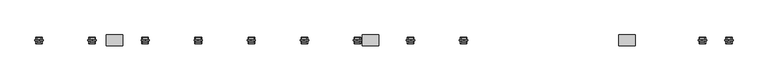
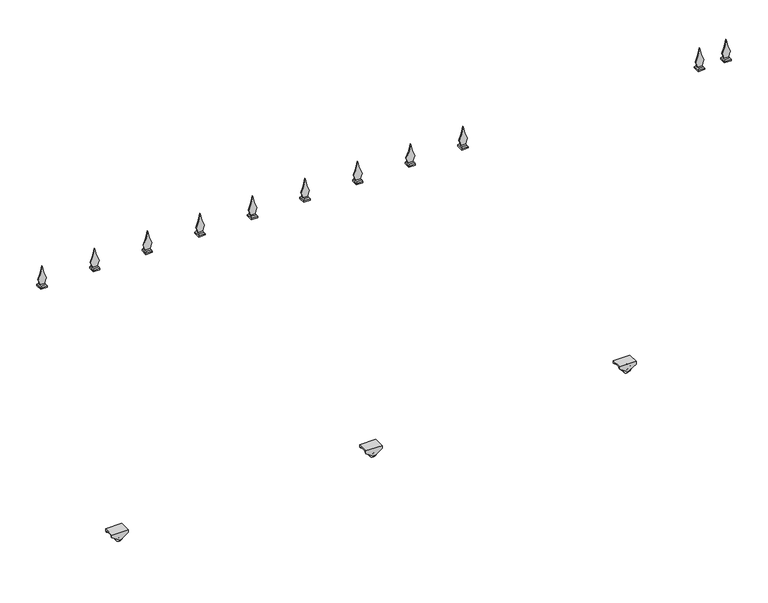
"""IFC4 building model written with IfcOpenShell, lengths in millimetres: geographic element geometry, Portail coulissant - 01 : Portail coulissant - 01."""

from ifc_helpers import new_model, si_unit, point, frame, frame_2d, origin, place, context, project, spatial, polyline, circle_curve, trimmed, segment, composite_curve, outline, extrude, faceted_brep, source, transform, mapped, element, save
from ifc_brep_helpers import plane_surface, cylinder_surface, advanced_brep


def geographic_element_150366da(model_context):
    return source(origin(), model_context, "Body", "SolidModel", [
        advanced_brep(
        [(799.2264823, 1.5, 33.0), (799.2264823, 14.5, 33.0), (799.2264823, 14.5, 3.0), (799.2264823, 1.5, 3.0), (799.2264823, 1.5, 6.0), (799.2264823, 1.5, 30.0), (799.2264823, -1.5, 6.0), (799.2264823, -1.5, 30.0), (799.2264823, -1.5, 3.0), (799.2264823, -1.5, 33.0), (799.2264823, -14.5, 3.0), (799.2264823, -14.5, 33.0), (799.2264823, -14.5, 15.0), (796.2264823, -14.5, 18.0), (799.2264823, -14.5, 21.0), (802.2264823, -14.5, 18.0), (799.2264823, 14.5, 21.0), (796.2264823, 14.5, 18.0), (799.2264823, 14.5, 15.0), (802.2264823, 14.5, 18.0), (796.2264823, 16.0, 18.0), (802.2264823, 16.0, 18.0), (796.2264823, -16.0, 18.0), (802.2264823, -16.0, 18.0)],
        [
            (0, 1),
            (1, 2, circle_curve(frame((799.2264823, 14.5, 18.0), z_axis=(0.0, -1.0, 0.0), x_axis=(0.0, 0.0, -1.0)), 15.0)),
            (2, 3),
            (3, 0, circle_curve(frame((799.2264823, 1.5, 18.0), z_axis=(0.0, 1.0, 0.0), x_axis=(0.0, 0.0, -1.0)), 15.0)),
            (2, 1, circle_curve(frame((799.2264823, 14.5, 18.0), z_axis=(0.0, -1.0, 0.0), x_axis=(0.0, 0.0, -1.0)), 15.0)),
            (0, 3, circle_curve(frame((799.2264823, 1.5, 18.0), z_axis=(0.0, 1.0, 0.0), x_axis=(0.0, 0.0, -1.0)), 15.0)),
            (3, 4),
            (4, 5, circle_curve(frame((799.2264823, 1.5, 18.0), z_axis=(0.0, 1.0, 0.0), x_axis=(0.0, 0.0, -1.0)), 12.0)),
            (5, 0),
            (5, 4, circle_curve(frame((799.2264823, 1.5, 18.0), z_axis=(0.0, 1.0, 0.0), x_axis=(0.0, 0.0, -1.0)), 12.0)),
            (4, 6),
            (6, 7, circle_curve(frame((799.2264823, -1.5, 18.0), z_axis=(0.0, 1.0, 0.0), x_axis=(0.0, 0.0, -1.0)), 12.0)),
            (7, 5),
            (7, 6, circle_curve(frame((799.2264823, -1.5, 18.0), z_axis=(0.0, 1.0, 0.0), x_axis=(0.0, 0.0, -1.0)), 12.0)),
            (6, 8),
            (8, 9, circle_curve(frame((799.2264823, -1.5, 18.0), z_axis=(0.0, 1.0, 0.0), x_axis=(0.0, 0.0, -1.0)), 15.0)),
            (9, 7),
            (9, 8, circle_curve(frame((799.2264823, -1.5, 18.0), z_axis=(0.0, 1.0, 0.0), x_axis=(0.0, 0.0, -1.0)), 15.0)),
            (8, 10),
            (10, 11, circle_curve(frame((799.2264823, -14.5, 18.0), z_axis=(0.0, 1.0, 0.0), x_axis=(0.0, 0.0, -1.0)), 15.0)),
            (11, 9),
            (11, 10, circle_curve(frame((799.2264823, -14.5, 18.0), z_axis=(0.0, 1.0, 0.0), x_axis=(0.0, 0.0, -1.0)), 15.0)),
            (10, 12),
            (12, 13, circle_curve(frame((799.2264823, -14.5, 18.0), z_axis=(0.0, 1.0, 0.0), x_axis=(1.0, 0.0, 0.0)), 3.0)),
            (13, 14, circle_curve(frame((799.2264823, -14.5, 18.0), z_axis=(0.0, 1.0, 0.0), x_axis=(1.0, 0.0, 0.0)), 3.0)),
            (14, 11),
            (14, 15, circle_curve(frame((799.2264823, -14.5, 18.0), z_axis=(0.0, 1.0, 0.0), x_axis=(1.0, 0.0, 0.0)), 3.0)),
            (15, 12, circle_curve(frame((799.2264823, -14.5, 18.0), z_axis=(0.0, 1.0, 0.0), x_axis=(1.0, 0.0, 0.0)), 3.0)),
            (1, 16),
            (16, 17, circle_curve(frame((799.2264823, 14.5, 18.0), z_axis=(0.0, -1.0, 0.0), x_axis=(1.0, 0.0, 0.0)), 3.0)),
            (17, 18, circle_curve(frame((799.2264823, 14.5, 18.0), z_axis=(0.0, -1.0, 0.0), x_axis=(1.0, 0.0, 0.0)), 3.0)),
            (18, 2),
            (18, 19, circle_curve(frame((799.2264823, 14.5, 18.0), z_axis=(0.0, -1.0, 0.0), x_axis=(1.0, 0.0, 0.0)), 3.0)),
            (19, 16, circle_curve(frame((799.2264823, 14.5, 18.0), z_axis=(0.0, -1.0, 0.0), x_axis=(1.0, 0.0, 0.0)), 3.0)),
            (20, 21, circle_curve(frame((799.2264823, 16.0, 18.0), z_axis=(0.0, 1.0, 0.0), x_axis=(1.0, 0.0, 0.0)), 3.0)),
            (21, 20, circle_curve(frame((799.2264823, 16.0, 18.0), z_axis=(0.0, 1.0, 0.0), x_axis=(1.0, 0.0, 0.0)), 3.0)),
            (22, 23, circle_curve(frame((799.2264823, -16.0, 18.0), z_axis=(0.0, -1.0, 0.0), x_axis=(1.0, 0.0, 0.0)), 3.0)),
            (23, 22, circle_curve(frame((799.2264823, -16.0, 18.0), z_axis=(0.0, -1.0, 0.0), x_axis=(1.0, 0.0, 0.0)), 3.0)),
            (22, 13),
            (15, 23),
            (21, 19),
            (17, 20),
        ],
        [
            cylinder_surface(frame((799.2264823, -152.0, 18.0), z_axis=(0.0, -1.0, 0.0), x_axis=(0.0, 0.0, -1.0)), 15.0),
            plane_surface(frame((799.2264823, 1.5, 18.0), z_axis=(0.0, -1.0, 0.0), x_axis=(0.0, 0.0, -1.0))),
            cylinder_surface(frame((799.2264823, -152.0, 18.0), z_axis=(0.0, -1.0, 0.0), x_axis=(0.0, 0.0, -1.0)), 12.0),
            plane_surface(frame((799.2264823, -1.5, 18.0), z_axis=(0.0, 1.0, 0.0), x_axis=(0.0, 0.0, -1.0))),
            plane_surface(frame((799.2264823, -14.5, 18.0), z_axis=(0.0, -1.0, 0.0), x_axis=(0.0, 0.0, -1.0))),
            plane_surface(frame((799.2264823, 14.5, 18.0), z_axis=(0.0, 1.0, 0.0), x_axis=(0.0, 0.0, -1.0))),
            plane_surface(frame((802.2264823, 16.0, 18.0), z_axis=(0.0, 1.0, 0.0), x_axis=(0.0, 0.0, 1.0))),
            plane_surface(frame((802.2264823, -16.0, 18.0), z_axis=(0.0, -1.0, 0.0), x_axis=(0.0, 0.0, -1.0))),
            cylinder_surface(frame((799.2264823, -16.0, 18.0), z_axis=(0.0, 1.0, 0.0), x_axis=(1.0, 0.0, 0.0)), 3.0),
        ],
        [
            (0, [[1, 2, 3, 4]]),
            (0, [[5, -1, 6, -3]]),
            (1, [[7, 8, 9, -4]]),
            (1, [[-9, 10, -7, -6]]),
            (2, [[11, 12, 13, -8]]),
            (2, [[-13, 14, -11, -10]]),
            (3, [[15, 16, 17, -12]]),
            (3, [[-17, 18, -15, -14]]),
            (0, [[19, 20, 21, -16]]),
            (0, [[-21, 22, -19, -18]]),
            (4, [[23, 24, 25, 26, -20]]),
            (4, [[-26, 27, 28, -23, -22]]),
            (5, [[29, 30, 31, 32, -2]]),
            (5, [[-32, 33, 34, -29, -5]]),
            (6, [[35, 36]]),
            (7, [[37, 38]]),
            (8, [[39, -24, -28, 40, -37]]),
            (8, [[41, -33, -31, 42, -36]]),
            (8, [[-42, -30, -34, -41, -35]]),
            (8, [[-40, -27, -25, -39, -38]]),
        ],
    ),
        advanced_brep(
        [(769.2264823, 20.0, 30.0), (769.2264823, 20.0, 40.0), (829.2264823, 20.0, 40.0), (829.2264823, 20.0, 30.0), (804.7734842, 20.0, 13.6980013), (793.6794803, 20.0, 13.6980013), (769.2264823, -20.0, 30.0), (793.6794803, -20.0, 13.6980013), (804.7734842, -20.0, 13.6980013), (829.2264823, -20.0, 30.0), (829.2264823, -20.0, 40.0), (769.2264823, -20.0, 40.0), (769.2264823, -16.0, 30.0), (793.6794803, -16.0, 13.6980013), (793.6794803, 16.0, 13.6980013), (769.2264823, 16.0, 30.0), (804.7734842, -16.0, 13.6980013), (804.7734842, 16.0, 13.6980013), (829.2264823, -16.0, 30.0), (829.2264823, 16.0, 30.0), (829.2264823, -16.0, 36.0), (829.2264823, 16.0, 36.0), (769.2264823, 16.0, 36.0), (769.2264823, -16.0, 36.0)],
        [
            (0, 1),
            (1, 2),
            (2, 3),
            (3, 4),
            (4, 5, circle_curve(frame((799.2264823, 20.0, 22.0185043), z_axis=(0.0, 1.0, 0.0), x_axis=(1.0, 0.0, 0.0)), 10.0)),
            (5, 0),
            (6, 7),
            (7, 8, circle_curve(frame((799.2264823, -20.0, 22.0185043), z_axis=(0.0, -1.0, 0.0), x_axis=(1.0, 0.0, 0.0)), 10.0)),
            (8, 9),
            (9, 10),
            (10, 11),
            (11, 6),
            (6, 12),
            (12, 13),
            (13, 7),
            (5, 14),
            (14, 15),
            (15, 0),
            (13, 16, circle_curve(frame((799.2264823, -16.0, 22.0185043), z_axis=(0.0, -1.0, 0.0), x_axis=(1.0, 0.0, 0.0)), 10.0)),
            (16, 8),
            (4, 17),
            (17, 14, circle_curve(frame((799.2264823, 16.0, 22.0185043), z_axis=(0.0, 1.0, 0.0), x_axis=(1.0, 0.0, 0.0)), 10.0)),
            (16, 18),
            (18, 9),
            (3, 19),
            (19, 17),
            (2, 10),
            (18, 20),
            (20, 21),
            (21, 19),
            (1, 11),
            (15, 22),
            (22, 23),
            (23, 12),
            (21, 22),
            (20, 23),
        ],
        [
            plane_surface(frame((769.2264823, 20.0, 30.0), z_axis=(0.0, 1.0000000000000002, 0.0), x_axis=(0.8320502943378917, 0.0, -0.5547001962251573))),
            plane_surface(frame((769.2264823, -20.0, 30.0), z_axis=(0.0, -1.0000000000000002, 0.0), x_axis=(-0.8320502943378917, 0.0, 0.5547001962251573))),
            plane_surface(frame((769.2264823, 20.0, 30.0), z_axis=(-0.5547001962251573, 0.0, -0.8320502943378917), x_axis=(0.0, -1.0, 0.0))),
            cylinder_surface(frame((799.2264823, -20.0, 22.0185043), z_axis=(0.0, 1.0, 0.0), x_axis=(1.0, 0.0, 0.0)), 10.0),
            plane_surface(frame((804.7734842, 20.0, 13.6980013), z_axis=(0.554700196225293, 0.0, -0.8320502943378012), x_axis=(0.0, -1.0, 0.0))),
            plane_surface(frame((829.2264823, 20.0, 30.0), z_axis=(1.0, 0.0, 0.0), x_axis=(0.0, -1.0, 0.0))),
            plane_surface(frame((829.2264823, 20.0, 40.0), z_axis=(0.0, 0.0, 1.0), x_axis=(0.0, -1.0, 0.0))),
            plane_surface(frame((769.2264823, 20.0, 40.0), z_axis=(-1.0, 0.0, 0.0), x_axis=(0.0, -1.0, 0.0))),
            plane_surface(frame((769.2264823, 16.0, 0.0), z_axis=(0.0, -1.0, 0.0), x_axis=(1.0, 0.0, 0.0))),
            plane_surface(frame((769.2264823, 16.0, 36.0), z_axis=(0.0, 0.0, -1.0), x_axis=(1.0, 0.0, 0.0))),
            plane_surface(frame((769.2264823, -16.0, 36.0), z_axis=(0.0, 1.0, 0.0), x_axis=(1.0, 0.0, 0.0))),
        ],
        [
            (0, [[1, 2, 3, 4, 5, 6]]),
            (1, [[7, 8, 9, 10, 11, 12]]),
            (2, [[13, 14, 15, -7]]),
            (2, [[16, 17, 18, -6]]),
            (3, [[-15, 19, 20, -8]]),
            (3, [[21, 22, -16, -5]]),
            (4, [[-20, 23, 24, -9]]),
            (4, [[25, 26, -21, -4]]),
            (5, [[27, -10, -24, 28, 29, 30, -25, -3]]),
            (6, [[31, -11, -27, -2]]),
            (7, [[-18, 32, 33, 34, -13, -12, -31, -1]]),
            (8, [[-32, -17, -22, -26, -30, 35]]),
            (9, [[-29, 36, -33, -35]]),
            (10, [[-28, -23, -19, -14, -34, -36]]),
        ],
    ),
        advanced_brep(
        [(-134.1068511, 1.5, 33.0), (-134.1068511, 14.5, 33.0), (-134.1068511, 14.5, 3.0), (-134.1068511, 1.5, 3.0), (-134.1068511, 1.5, 6.0), (-134.1068511, 1.5, 30.0), (-134.1068511, -1.5, 6.0), (-134.1068511, -1.5, 30.0), (-134.1068511, -1.5, 3.0), (-134.1068511, -1.5, 33.0), (-134.1068511, -14.5, 3.0), (-134.1068511, -14.5, 33.0), (-134.1068511, -14.5, 15.0), (-137.1068511, -14.5, 18.0), (-134.1068511, -14.5, 21.0), (-131.1068511, -14.5, 18.0), (-134.1068511, 14.5, 21.0), (-137.1068511, 14.5, 18.0), (-134.1068511, 14.5, 15.0), (-131.1068511, 14.5, 18.0), (-137.1068511, 16.0, 18.0), (-131.1068511, 16.0, 18.0), (-137.1068511, -16.0, 18.0), (-131.1068511, -16.0, 18.0)],
        [
            (0, 1),
            (1, 2, circle_curve(frame((-134.1068511, 14.5, 18.0), z_axis=(0.0, -1.0, 0.0), x_axis=(0.0, 0.0, -1.0)), 15.0)),
            (2, 3),
            (3, 0, circle_curve(frame((-134.1068511, 1.5, 18.0), z_axis=(0.0, 1.0, 0.0), x_axis=(0.0, 0.0, -1.0)), 15.0)),
            (2, 1, circle_curve(frame((-134.1068511, 14.5, 18.0), z_axis=(0.0, -1.0, 0.0), x_axis=(0.0, 0.0, -1.0)), 15.0)),
            (0, 3, circle_curve(frame((-134.1068511, 1.5, 18.0), z_axis=(0.0, 1.0, 0.0), x_axis=(0.0, 0.0, -1.0)), 15.0)),
            (3, 4),
            (4, 5, circle_curve(frame((-134.1068511, 1.5, 18.0), z_axis=(0.0, 1.0, 0.0), x_axis=(0.0, 0.0, -1.0)), 12.0)),
            (5, 0),
            (5, 4, circle_curve(frame((-134.1068511, 1.5, 18.0), z_axis=(0.0, 1.0, 0.0), x_axis=(0.0, 0.0, -1.0)), 12.0)),
            (4, 6),
            (6, 7, circle_curve(frame((-134.1068511, -1.5, 18.0), z_axis=(0.0, 1.0, 0.0), x_axis=(0.0, 0.0, -1.0)), 12.0)),
            (7, 5),
            (7, 6, circle_curve(frame((-134.1068511, -1.5, 18.0), z_axis=(0.0, 1.0, 0.0), x_axis=(0.0, 0.0, -1.0)), 12.0)),
            (6, 8),
            (8, 9, circle_curve(frame((-134.1068511, -1.5, 18.0), z_axis=(0.0, 1.0, 0.0), x_axis=(0.0, 0.0, -1.0)), 15.0)),
            (9, 7),
            (9, 8, circle_curve(frame((-134.1068511, -1.5, 18.0), z_axis=(0.0, 1.0, 0.0), x_axis=(0.0, 0.0, -1.0)), 15.0)),
            (8, 10),
            (10, 11, circle_curve(frame((-134.1068511, -14.5, 18.0), z_axis=(0.0, 1.0, 0.0), x_axis=(0.0, 0.0, -1.0)), 15.0)),
            (11, 9),
            (11, 10, circle_curve(frame((-134.1068511, -14.5, 18.0), z_axis=(0.0, 1.0, 0.0), x_axis=(0.0, 0.0, -1.0)), 15.0)),
            (10, 12),
            (12, 13, circle_curve(frame((-134.1068511, -14.5, 18.0), z_axis=(0.0, 1.0, 0.0), x_axis=(1.0, 0.0, 0.0)), 3.0)),
            (13, 14, circle_curve(frame((-134.1068511, -14.5, 18.0), z_axis=(0.0, 1.0, 0.0), x_axis=(1.0, 0.0, 0.0)), 3.0)),
            (14, 11),
            (14, 15, circle_curve(frame((-134.1068511, -14.5, 18.0), z_axis=(0.0, 1.0, 0.0), x_axis=(1.0, 0.0, 0.0)), 3.0)),
            (15, 12, circle_curve(frame((-134.1068511, -14.5, 18.0), z_axis=(0.0, 1.0, 0.0), x_axis=(1.0, 0.0, 0.0)), 3.0)),
            (1, 16),
            (16, 17, circle_curve(frame((-134.1068511, 14.5, 18.0), z_axis=(0.0, -1.0, 0.0), x_axis=(1.0, 0.0, 0.0)), 3.0)),
            (17, 18, circle_curve(frame((-134.1068511, 14.5, 18.0), z_axis=(0.0, -1.0, 0.0), x_axis=(1.0, 0.0, 0.0)), 3.0)),
            (18, 2),
            (18, 19, circle_curve(frame((-134.1068511, 14.5, 18.0), z_axis=(0.0, -1.0, 0.0), x_axis=(1.0, 0.0, 0.0)), 3.0)),
            (19, 16, circle_curve(frame((-134.1068511, 14.5, 18.0), z_axis=(0.0, -1.0, 0.0), x_axis=(1.0, 0.0, 0.0)), 3.0)),
            (20, 21, circle_curve(frame((-134.1068511, 16.0, 18.0), z_axis=(0.0, 1.0, 0.0), x_axis=(1.0, 0.0, 0.0)), 3.0)),
            (21, 20, circle_curve(frame((-134.1068511, 16.0, 18.0), z_axis=(0.0, 1.0, 0.0), x_axis=(1.0, 0.0, 0.0)), 3.0)),
            (22, 23, circle_curve(frame((-134.1068511, -16.0, 18.0), z_axis=(0.0, -1.0, 0.0), x_axis=(1.0, 0.0, 0.0)), 3.0)),
            (23, 22, circle_curve(frame((-134.1068511, -16.0, 18.0), z_axis=(0.0, -1.0, 0.0), x_axis=(1.0, 0.0, 0.0)), 3.0)),
            (22, 13),
            (15, 23),
            (21, 19),
            (17, 20),
        ],
        [
            cylinder_surface(frame((-134.1068511, -152.0, 18.0), z_axis=(0.0, -1.0, 0.0), x_axis=(0.0, 0.0, -1.0)), 15.0),
            plane_surface(frame((-134.1068511, 1.5, 18.0), z_axis=(0.0, -1.0, 0.0), x_axis=(0.0, 0.0, -1.0))),
            cylinder_surface(frame((-134.1068511, -152.0, 18.0), z_axis=(0.0, -1.0, 0.0), x_axis=(0.0, 0.0, -1.0)), 12.0),
            plane_surface(frame((-134.1068511, -1.5, 18.0), z_axis=(0.0, 1.0, 0.0), x_axis=(0.0, 0.0, -1.0))),
            plane_surface(frame((-134.1068511, -14.5, 18.0), z_axis=(0.0, -1.0, 0.0), x_axis=(0.0, 0.0, -1.0))),
            plane_surface(frame((-134.1068511, 14.5, 18.0), z_axis=(0.0, 1.0, 0.0), x_axis=(0.0, 0.0, -1.0))),
            plane_surface(frame((-131.1068511, 16.0, 18.0), z_axis=(0.0, 1.0, 0.0), x_axis=(0.0, 0.0, 1.0))),
            plane_surface(frame((-131.1068511, -16.0, 18.0), z_axis=(0.0, -1.0, 0.0), x_axis=(0.0, 0.0, -1.0))),
            cylinder_surface(frame((-134.1068511, -16.0, 18.0), z_axis=(0.0, 1.0, 0.0), x_axis=(1.0, 0.0, 0.0)), 3.0),
        ],
        [
            (0, [[1, 2, 3, 4]]),
            (0, [[5, -1, 6, -3]]),
            (1, [[7, 8, 9, -4]]),
            (1, [[-9, 10, -7, -6]]),
            (2, [[11, 12, 13, -8]]),
            (2, [[-13, 14, -11, -10]]),
            (3, [[15, 16, 17, -12]]),
            (3, [[-17, 18, -15, -14]]),
            (0, [[19, 20, 21, -16]]),
            (0, [[-21, 22, -19, -18]]),
            (4, [[23, 24, 25, 26, -20]]),
            (4, [[-26, 27, 28, -23, -22]]),
            (5, [[29, 30, 31, 32, -2]]),
            (5, [[-32, 33, 34, -29, -5]]),
            (6, [[35, 36]]),
            (7, [[37, 38]]),
            (8, [[39, -24, -28, 40, -37]]),
            (8, [[41, -33, -31, 42, -36]]),
            (8, [[-42, -30, -34, -41, -35]]),
            (8, [[-40, -27, -25, -39, -38]]),
        ],
    ),
        advanced_brep(
        [(-164.1068511, 20.0, 30.0), (-164.1068511, 20.0, 40.0), (-104.1068511, 20.0, 40.0), (-104.1068511, 20.0, 30.0), (-128.5598491, 20.0, 13.6980013), (-139.653853, 20.0, 13.6980013), (-164.1068511, -20.0, 30.0), (-139.653853, -20.0, 13.6980013), (-128.5598491, -20.0, 13.6980013), (-104.1068511, -20.0, 30.0), (-104.1068511, -20.0, 40.0), (-164.1068511, -20.0, 40.0), (-164.1068511, -16.0, 30.0), (-139.653853, -16.0, 13.6980013), (-139.653853, 16.0, 13.6980013), (-164.1068511, 16.0, 30.0), (-128.5598491, -16.0, 13.6980013), (-128.5598491, 16.0, 13.6980013), (-104.1068511, -16.0, 30.0), (-104.1068511, 16.0, 30.0), (-104.1068511, -16.0, 36.0), (-104.1068511, 16.0, 36.0), (-164.1068511, 16.0, 36.0), (-164.1068511, -16.0, 36.0)],
        [
            (0, 1),
            (1, 2),
            (2, 3),
            (3, 4),
            (4, 5, circle_curve(frame((-134.1068511, 20.0, 22.0185043), z_axis=(0.0, 1.0, 0.0), x_axis=(1.0, 0.0, 0.0)), 10.0)),
            (5, 0),
            (6, 7),
            (7, 8, circle_curve(frame((-134.1068511, -20.0, 22.0185043), z_axis=(0.0, -1.0, 0.0), x_axis=(1.0, 0.0, 0.0)), 10.0)),
            (8, 9),
            (9, 10),
            (10, 11),
            (11, 6),
            (6, 12),
            (12, 13),
            (13, 7),
            (5, 14),
            (14, 15),
            (15, 0),
            (13, 16, circle_curve(frame((-134.1068511, -16.0, 22.0185043), z_axis=(0.0, -1.0, 0.0), x_axis=(1.0, 0.0, 0.0)), 10.0)),
            (16, 8),
            (4, 17),
            (17, 14, circle_curve(frame((-134.1068511, 16.0, 22.0185043), z_axis=(0.0, 1.0, 0.0), x_axis=(1.0, 0.0, 0.0)), 10.0)),
            (16, 18),
            (18, 9),
            (3, 19),
            (19, 17),
            (2, 10),
            (18, 20),
            (20, 21),
            (21, 19),
            (1, 11),
            (15, 22),
            (22, 23),
            (23, 12),
            (21, 22),
            (20, 23),
        ],
        [
            plane_surface(frame((-164.1068511, 20.0, 30.0), z_axis=(0.0, 1.0000000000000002, 0.0), x_axis=(0.8320502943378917, 0.0, -0.5547001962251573))),
            plane_surface(frame((-164.1068511, -20.0, 30.0), z_axis=(0.0, -1.0000000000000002, 0.0), x_axis=(-0.8320502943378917, 0.0, 0.5547001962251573))),
            plane_surface(frame((-164.1068511, 20.0, 30.0), z_axis=(-0.5547001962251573, 0.0, -0.8320502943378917), x_axis=(0.0, -1.0, 0.0))),
            cylinder_surface(frame((-134.1068511, -20.0, 22.0185043), z_axis=(0.0, 1.0, 0.0), x_axis=(1.0, 0.0, 0.0)), 10.0),
            plane_surface(frame((-128.5598491, 20.0, 13.6980013), z_axis=(0.554700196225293, 0.0, -0.8320502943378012), x_axis=(0.0, -1.0, 0.0))),
            plane_surface(frame((-104.1068511, 20.0, 30.0), z_axis=(1.0, 0.0, 0.0), x_axis=(0.0, -1.0, 0.0))),
            plane_surface(frame((-104.1068511, 20.0, 40.0), z_axis=(0.0, 0.0, 1.0), x_axis=(0.0, -1.0, 0.0))),
            plane_surface(frame((-164.1068511, 20.0, 40.0), z_axis=(-1.0, 0.0, 0.0), x_axis=(0.0, -1.0, 0.0))),
            plane_surface(frame((-164.1068511, 16.0, 0.0), z_axis=(0.0, -1.0, 0.0), x_axis=(1.0, 0.0, 0.0))),
            plane_surface(frame((-164.1068511, 16.0, 36.0), z_axis=(0.0, 0.0, -1.0), x_axis=(1.0, 0.0, 0.0))),
            plane_surface(frame((-164.1068511, -16.0, 36.0), z_axis=(0.0, 1.0, 0.0), x_axis=(1.0, 0.0, 0.0))),
        ],
        [
            (0, [[1, 2, 3, 4, 5, 6]]),
            (1, [[7, 8, 9, 10, 11, 12]]),
            (2, [[13, 14, 15, -7]]),
            (2, [[16, 17, 18, -6]]),
            (3, [[-15, 19, 20, -8]]),
            (3, [[21, 22, -16, -5]]),
            (4, [[-20, 23, 24, -9]]),
            (4, [[25, 26, -21, -4]]),
            (5, [[27, -10, -24, 28, 29, 30, -25, -3]]),
            (6, [[31, -11, -27, -2]]),
            (7, [[-18, 32, 33, 34, -13, -12, -31, -1]]),
            (8, [[-32, -17, -22, -26, -30, 35]]),
            (9, [[-29, 36, -33, -35]]),
            (10, [[-28, -23, -19, -14, -34, -36]]),
        ],
    ),
        advanced_brep(
        [(-1067.4401844, 1.5, 33.0), (-1067.4401844, 14.5, 33.0), (-1067.4401844, 14.5, 3.0), (-1067.4401844, 1.5, 3.0), (-1067.4401844, 1.5, 6.0), (-1067.4401844, 1.5, 30.0), (-1067.4401844, -1.5, 6.0), (-1067.4401844, -1.5, 30.0), (-1067.4401844, -1.5, 3.0), (-1067.4401844, -1.5, 33.0), (-1067.4401844, -14.5, 3.0), (-1067.4401844, -14.5, 33.0), (-1067.4401844, -14.5, 15.0), (-1070.4401844, -14.5, 18.0), (-1067.4401844, -14.5, 21.0), (-1064.4401844, -14.5, 18.0), (-1067.4401844, 14.5, 21.0), (-1070.4401844, 14.5, 18.0), (-1067.4401844, 14.5, 15.0), (-1064.4401844, 14.5, 18.0), (-1070.4401844, 16.0, 18.0), (-1064.4401844, 16.0, 18.0), (-1070.4401844, -16.0, 18.0), (-1064.4401844, -16.0, 18.0)],
        [
            (0, 1),
            (1, 2, circle_curve(frame((-1067.4401844, 14.5, 18.0), z_axis=(0.0, -1.0, 0.0), x_axis=(0.0, 0.0, -1.0)), 15.0)),
            (2, 3),
            (3, 0, circle_curve(frame((-1067.4401844, 1.5, 18.0), z_axis=(0.0, 1.0, 0.0), x_axis=(0.0, 0.0, -1.0)), 15.0)),
            (2, 1, circle_curve(frame((-1067.4401844, 14.5, 18.0), z_axis=(0.0, -1.0, 0.0), x_axis=(0.0, 0.0, -1.0)), 15.0)),
            (0, 3, circle_curve(frame((-1067.4401844, 1.5, 18.0), z_axis=(0.0, 1.0, 0.0), x_axis=(0.0, 0.0, -1.0)), 15.0)),
            (3, 4),
            (4, 5, circle_curve(frame((-1067.4401844, 1.5, 18.0), z_axis=(0.0, 1.0, 0.0), x_axis=(0.0, 0.0, -1.0)), 12.0)),
            (5, 0),
            (5, 4, circle_curve(frame((-1067.4401844, 1.5, 18.0), z_axis=(0.0, 1.0, 0.0), x_axis=(0.0, 0.0, -1.0)), 12.0)),
            (4, 6),
            (6, 7, circle_curve(frame((-1067.4401844, -1.5, 18.0), z_axis=(0.0, 1.0, 0.0), x_axis=(0.0, 0.0, -1.0)), 12.0)),
            (7, 5),
            (7, 6, circle_curve(frame((-1067.4401844, -1.5, 18.0), z_axis=(0.0, 1.0, 0.0), x_axis=(0.0, 0.0, -1.0)), 12.0)),
            (6, 8),
            (8, 9, circle_curve(frame((-1067.4401844, -1.5, 18.0), z_axis=(0.0, 1.0, 0.0), x_axis=(0.0, 0.0, -1.0)), 15.0)),
            (9, 7),
            (9, 8, circle_curve(frame((-1067.4401844, -1.5, 18.0), z_axis=(0.0, 1.0, 0.0), x_axis=(0.0, 0.0, -1.0)), 15.0)),
            (8, 10),
            (10, 11, circle_curve(frame((-1067.4401844, -14.5, 18.0), z_axis=(0.0, 1.0, 0.0), x_axis=(0.0, 0.0, -1.0)), 15.0)),
            (11, 9),
            (11, 10, circle_curve(frame((-1067.4401844, -14.5, 18.0), z_axis=(0.0, 1.0, 0.0), x_axis=(0.0, 0.0, -1.0)), 15.0)),
            (10, 12),
            (12, 13, circle_curve(frame((-1067.4401844, -14.5, 18.0), z_axis=(0.0, 1.0, 0.0), x_axis=(1.0, 0.0, 0.0)), 3.0)),
            (13, 14, circle_curve(frame((-1067.4401844, -14.5, 18.0), z_axis=(0.0, 1.0, 0.0), x_axis=(1.0, 0.0, 0.0)), 3.0)),
            (14, 11),
            (14, 15, circle_curve(frame((-1067.4401844, -14.5, 18.0), z_axis=(0.0, 1.0, 0.0), x_axis=(1.0, 0.0, 0.0)), 3.0)),
            (15, 12, circle_curve(frame((-1067.4401844, -14.5, 18.0), z_axis=(0.0, 1.0, 0.0), x_axis=(1.0, 0.0, 0.0)), 3.0)),
            (1, 16),
            (16, 17, circle_curve(frame((-1067.4401844, 14.5, 18.0), z_axis=(0.0, -1.0, 0.0), x_axis=(1.0, 0.0, 0.0)), 3.0)),
            (17, 18, circle_curve(frame((-1067.4401844, 14.5, 18.0), z_axis=(0.0, -1.0, 0.0), x_axis=(1.0, 0.0, 0.0)), 3.0)),
            (18, 2),
            (18, 19, circle_curve(frame((-1067.4401844, 14.5, 18.0), z_axis=(0.0, -1.0, 0.0), x_axis=(1.0, 0.0, 0.0)), 3.0)),
            (19, 16, circle_curve(frame((-1067.4401844, 14.5, 18.0), z_axis=(0.0, -1.0, 0.0), x_axis=(1.0, 0.0, 0.0)), 3.0)),
            (20, 21, circle_curve(frame((-1067.4401844, 16.0, 18.0), z_axis=(0.0, 1.0, 0.0), x_axis=(1.0, 0.0, 0.0)), 3.0)),
            (21, 20, circle_curve(frame((-1067.4401844, 16.0, 18.0), z_axis=(0.0, 1.0, 0.0), x_axis=(1.0, 0.0, 0.0)), 3.0)),
            (22, 23, circle_curve(frame((-1067.4401844, -16.0, 18.0), z_axis=(0.0, -1.0, 0.0), x_axis=(1.0, 0.0, 0.0)), 3.0)),
            (23, 22, circle_curve(frame((-1067.4401844, -16.0, 18.0), z_axis=(0.0, -1.0, 0.0), x_axis=(1.0, 0.0, 0.0)), 3.0)),
            (22, 13),
            (15, 23),
            (21, 19),
            (17, 20),
        ],
        [
            cylinder_surface(frame((-1067.4401844, -152.0, 18.0), z_axis=(0.0, -1.0, 0.0), x_axis=(0.0, 0.0, -1.0)), 15.0),
            plane_surface(frame((-1067.4401844, 1.5, 18.0), z_axis=(0.0, -1.0, 0.0), x_axis=(0.0, 0.0, -1.0))),
            cylinder_surface(frame((-1067.4401844, -152.0, 18.0), z_axis=(0.0, -1.0, 0.0), x_axis=(0.0, 0.0, -1.0)), 12.0),
            plane_surface(frame((-1067.4401844, -1.5, 18.0), z_axis=(0.0, 1.0, 0.0), x_axis=(0.0, 0.0, -1.0))),
            plane_surface(frame((-1067.4401844, -14.5, 18.0), z_axis=(0.0, -1.0, 0.0), x_axis=(0.0, 0.0, -1.0))),
            plane_surface(frame((-1067.4401844, 14.5, 18.0), z_axis=(0.0, 1.0, 0.0), x_axis=(0.0, 0.0, -1.0))),
            plane_surface(frame((-1064.4401844, 16.0, 18.0), z_axis=(0.0, 1.0, 0.0), x_axis=(0.0, 0.0, 1.0))),
            plane_surface(frame((-1064.4401844, -16.0, 18.0), z_axis=(0.0, -1.0, 0.0), x_axis=(0.0, 0.0, -1.0))),
            cylinder_surface(frame((-1067.4401844, -16.0, 18.0), z_axis=(0.0, 1.0, 0.0), x_axis=(1.0, 0.0, 0.0)), 3.0),
        ],
        [
            (0, [[1, 2, 3, 4]]),
            (0, [[5, -1, 6, -3]]),
            (1, [[7, 8, 9, -4]]),
            (1, [[-9, 10, -7, -6]]),
            (2, [[11, 12, 13, -8]]),
            (2, [[-13, 14, -11, -10]]),
            (3, [[15, 16, 17, -12]]),
            (3, [[-17, 18, -15, -14]]),
            (0, [[19, 20, 21, -16]]),
            (0, [[-21, 22, -19, -18]]),
            (4, [[23, 24, 25, 26, -20]]),
            (4, [[-26, 27, 28, -23, -22]]),
            (5, [[29, 30, 31, 32, -2]]),
            (5, [[-32, 33, 34, -29, -5]]),
            (6, [[35, 36]]),
            (7, [[37, 38]]),
            (8, [[39, -24, -28, 40, -37]]),
            (8, [[41, -33, -31, 42, -36]]),
            (8, [[-42, -30, -34, -41, -35]]),
            (8, [[-40, -27, -25, -39, -38]]),
        ],
    ),
        advanced_brep(
        [(-1097.4401844, 20.0, 30.0), (-1097.4401844, 20.0, 40.0), (-1037.4401844, 20.0, 40.0), (-1037.4401844, 20.0, 30.0), (-1061.8931824, 20.0, 13.6980013), (-1072.9871864, 20.0, 13.6980013), (-1097.4401844, -20.0, 30.0), (-1072.9871864, -20.0, 13.6980013), (-1061.8931824, -20.0, 13.6980013), (-1037.4401844, -20.0, 30.0), (-1037.4401844, -20.0, 40.0), (-1097.4401844, -20.0, 40.0), (-1097.4401844, -16.0, 30.0), (-1072.9871864, -16.0, 13.6980013), (-1072.9871864, 16.0, 13.6980013), (-1097.4401844, 16.0, 30.0), (-1061.8931824, -16.0, 13.6980013), (-1061.8931824, 16.0, 13.6980013), (-1037.4401844, -16.0, 30.0), (-1037.4401844, 16.0, 30.0), (-1037.4401844, -16.0, 36.0), (-1037.4401844, 16.0, 36.0), (-1097.4401844, 16.0, 36.0), (-1097.4401844, -16.0, 36.0)],
        [
            (0, 1),
            (1, 2),
            (2, 3),
            (3, 4),
            (4, 5, circle_curve(frame((-1067.4401844, 20.0, 22.0185043), z_axis=(0.0, 1.0, 0.0), x_axis=(1.0, 0.0, 0.0)), 10.0)),
            (5, 0),
            (6, 7),
            (7, 8, circle_curve(frame((-1067.4401844, -20.0, 22.0185043), z_axis=(0.0, -1.0, 0.0), x_axis=(1.0, 0.0, 0.0)), 10.0)),
            (8, 9),
            (9, 10),
            (10, 11),
            (11, 6),
            (6, 12),
            (12, 13),
            (13, 7),
            (5, 14),
            (14, 15),
            (15, 0),
            (13, 16, circle_curve(frame((-1067.4401844, -16.0, 22.0185043), z_axis=(0.0, -1.0, 0.0), x_axis=(1.0, 0.0, 0.0)), 10.0)),
            (16, 8),
            (4, 17),
            (17, 14, circle_curve(frame((-1067.4401844, 16.0, 22.0185043), z_axis=(0.0, 1.0, 0.0), x_axis=(1.0, 0.0, 0.0)), 10.0)),
            (16, 18),
            (18, 9),
            (3, 19),
            (19, 17),
            (2, 10),
            (18, 20),
            (20, 21),
            (21, 19),
            (1, 11),
            (15, 22),
            (22, 23),
            (23, 12),
            (21, 22),
            (20, 23),
        ],
        [
            plane_surface(frame((-1097.4401844, 20.0, 30.0), z_axis=(0.0, 1.0000000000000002, 0.0), x_axis=(0.8320502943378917, 0.0, -0.5547001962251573))),
            plane_surface(frame((-1097.4401844, -20.0, 30.0), z_axis=(0.0, -1.0000000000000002, 0.0), x_axis=(-0.8320502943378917, 0.0, 0.5547001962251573))),
            plane_surface(frame((-1097.4401844, 20.0, 30.0), z_axis=(-0.5547001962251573, 0.0, -0.8320502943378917), x_axis=(0.0, -1.0, 0.0))),
            cylinder_surface(frame((-1067.4401844, -20.0, 22.0185043), z_axis=(0.0, 1.0, 0.0), x_axis=(1.0, 0.0, 0.0)), 10.0),
            plane_surface(frame((-1061.8931824, 20.0, 13.6980013), z_axis=(0.554700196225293, 0.0, -0.8320502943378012), x_axis=(0.0, -1.0, 0.0))),
            plane_surface(frame((-1037.4401844, 20.0, 30.0), z_axis=(1.0, 0.0, 0.0), x_axis=(0.0, -1.0, 0.0))),
            plane_surface(frame((-1037.4401844, 20.0, 40.0), z_axis=(0.0, 0.0, 1.0), x_axis=(0.0, -1.0, 0.0))),
            plane_surface(frame((-1097.4401844, 20.0, 40.0), z_axis=(-1.0, 0.0, 0.0), x_axis=(0.0, -1.0, 0.0))),
            plane_surface(frame((-1097.4401844, 16.0, 0.0), z_axis=(0.0, -1.0, 0.0), x_axis=(1.0, 0.0, 0.0))),
            plane_surface(frame((-1097.4401844, 16.0, 36.0), z_axis=(0.0, 0.0, -1.0), x_axis=(1.0, 0.0, 0.0))),
            plane_surface(frame((-1097.4401844, -16.0, 36.0), z_axis=(0.0, 1.0, 0.0), x_axis=(1.0, 0.0, 0.0))),
        ],
        [
            (0, [[1, 2, 3, 4, 5, 6]]),
            (1, [[7, 8, 9, 10, 11, 12]]),
            (2, [[13, 14, 15, -7]]),
            (2, [[16, 17, 18, -6]]),
            (3, [[-15, 19, 20, -8]]),
            (3, [[21, 22, -16, -5]]),
            (4, [[-20, 23, 24, -9]]),
            (4, [[25, 26, -21, -4]]),
            (5, [[27, -10, -24, 28, 29, 30, -25, -3]]),
            (6, [[31, -11, -27, -2]]),
            (7, [[-18, 32, 33, 34, -13, -12, -31, -1]]),
            (8, [[-32, -17, -22, -26, -30, 35]]),
            (9, [[-29, 36, -33, -35]]),
            (10, [[-28, -23, -19, -14, -34, -36]]),
        ],
    ),
        extrude(outline(composite_curve([segment(trimmed(circle_curve(frame_2d((1074.9252719, 108.6440554)), 87.884948), [point((1110.0, 189.2264823))], [point((1090.0, 195.2264823))], True, "CARTESIAN"), True, "CONTINUOUS"), segment(polyline([(1090.0, 195.2264823), (1090.0, 213.2264823)]), True, "CONTINUOUS"), segment(trimmed(circle_curve(frame_2d((1074.9252719, 299.8089092)), 87.884948), [point((1090.0, 213.2264823))], [point((1110.0, 219.2264823))], True, "CARTESIAN"), True, "CONTINUOUS"), segment(trimmed(circle_curve(frame_2d((1184.2044665, 375.7413708)), 173.2143562), [point((1110.0, 219.2264823))], [point((1160.0, 204.2264823))], True, "CARTESIAN"), True, "CONTINUOUS"), segment(trimmed(circle_curve(frame_2d((1184.2044665, 32.7115938)), 173.2143562), [point((1160.0, 204.2264823))], [point((1110.0, 189.2264823))], True, "CARTESIAN"), True, "CONTINUOUS")], self_intersect=False)), frame((0.0, -1.5, 0.0), z_axis=(0.0, 1.0, 0.0), x_axis=(0.0, 0.0, 1.0)), (0.0, 0.0, 1.0), 3.0),
        faceted_brep([(195.2264823, -9.0, 1090.0), (213.2264823, -9.0, 1090.0), (213.2264823, 9.0, 1090.0), (195.2264823, 9.0, 1090.0), (192.2264823, -12.0, 1085.0), (192.2264823, 12.0, 1085.0), (216.2264823, 12.0, 1085.0), (216.2264823, -12.0, 1085.0)], [[[0, 1, 2, 3]], [[4, 5, 6, 7]], [[4, 0, 3, 5]], [[5, 3, 2, 6]], [[6, 2, 1, 7]], [[7, 1, 0, 4]]]),
        extrude(outline(polyline([(216.2264823, -12.0), (192.2264823, -12.0), (192.2264823, 12.0), (216.2264823, 12.0), (216.2264823, -12.0)])), frame((0.0, 0.0, 1080.0), z_axis=(0.0, 0.0, 1.0), x_axis=(1.0, 0.0, 0.0)), (0.0, 0.0, 1.0), 5.0),
        extrude(outline(composite_curve([segment(trimmed(circle_curve(frame_2d((1074.9252719, -84.689278)), 87.884948), [point((1110.0, -4.1068511))], [point((1090.0, 1.8931489))], True, "CARTESIAN"), True, "CONTINUOUS"), segment(polyline([(1090.0, 1.8931489), (1090.0, 19.8931489)]), True, "CONTINUOUS"), segment(trimmed(circle_curve(frame_2d((1074.9252719, 106.4755759)), 87.884948), [point((1090.0, 19.8931489))], [point((1110.0, 25.8931489))], True, "CARTESIAN"), True, "CONTINUOUS"), segment(trimmed(circle_curve(frame_2d((1184.2044665, 182.4080374)), 173.2143562), [point((1110.0, 25.8931489))], [point((1160.0, 10.8931489))], True, "CARTESIAN"), True, "CONTINUOUS"), segment(trimmed(circle_curve(frame_2d((1184.2044665, -160.6217396)), 173.2143562), [point((1160.0, 10.8931489))], [point((1110.0, -4.1068511))], True, "CARTESIAN"), True, "CONTINUOUS")], self_intersect=False)), frame((0.0, -1.5, 0.0), z_axis=(0.0, 1.0, 0.0), x_axis=(0.0, 0.0, 1.0)), (0.0, 0.0, 1.0), 3.0),
        faceted_brep([(1.8931489, -9.0, 1090.0), (19.8931489, -9.0, 1090.0), (19.8931489, 9.0, 1090.0), (1.8931489, 9.0, 1090.0), (-1.1068511, -12.0, 1085.0), (-1.1068511, 12.0, 1085.0), (22.8931489, 12.0, 1085.0), (22.8931489, -12.0, 1085.0)], [[[0, 1, 2, 3]], [[4, 5, 6, 7]], [[4, 0, 3, 5]], [[5, 3, 2, 6]], [[6, 2, 1, 7]], [[7, 1, 0, 4]]]),
        extrude(outline(polyline([(22.8931489, -12.0), (-1.1068511, -12.0), (-1.1068511, 12.0), (22.8931489, 12.0), (22.8931489, -12.0)])), frame((0.0, 0.0, 1080.0), z_axis=(0.0, 0.0, 1.0), x_axis=(1.0, 0.0, 0.0)), (0.0, 0.0, 1.0), 5.0),
        extrude(outline(composite_curve([segment(trimmed(circle_curve(frame_2d((1074.9252719, -278.0226113)), 87.884948), [point((1110.0, -197.4401844))], [point((1090.0, -191.4401844))], True, "CARTESIAN"), True, "CONTINUOUS"), segment(polyline([(1090.0, -191.4401844), (1090.0, -173.4401844)]), True, "CONTINUOUS"), segment(trimmed(circle_curve(frame_2d((1074.9252719, -86.8577575)), 87.884948), [point((1090.0, -173.4401844))], [point((1110.0, -167.4401844))], True, "CARTESIAN"), True, "CONTINUOUS"), segment(trimmed(circle_curve(frame_2d((1184.2044665, -10.9252959)), 173.2143562), [point((1110.0, -167.4401844))], [point((1160.0, -182.4401844))], True, "CARTESIAN"), True, "CONTINUOUS"), segment(trimmed(circle_curve(frame_2d((1184.2044665, -353.9550729)), 173.2143562), [point((1160.0, -182.4401844))], [point((1110.0, -197.4401844))], True, "CARTESIAN"), True, "CONTINUOUS")], self_intersect=False)), frame((0.0, -1.5, 0.0), z_axis=(0.0, 1.0, 0.0), x_axis=(0.0, 0.0, 1.0)), (0.0, 0.0, 1.0), 3.0),
        faceted_brep([(-191.4401844, -9.0, 1090.0), (-173.4401844, -9.0, 1090.0), (-173.4401844, 9.0, 1090.0), (-191.4401844, 9.0, 1090.0), (-194.4401844, -12.0, 1085.0), (-194.4401844, 12.0, 1085.0), (-170.4401844, 12.0, 1085.0), (-170.4401844, -12.0, 1085.0)], [[[0, 1, 2, 3]], [[4, 5, 6, 7]], [[4, 0, 3, 5]], [[5, 3, 2, 6]], [[6, 2, 1, 7]], [[7, 1, 0, 4]]]),
        extrude(outline(polyline([(-170.4401844, -12.0), (-194.4401844, -12.0), (-194.4401844, 12.0), (-170.4401844, 12.0), (-170.4401844, -12.0)])), frame((0.0, 0.0, 1080.0), z_axis=(0.0, 0.0, 1.0), x_axis=(1.0, 0.0, 0.0)), (0.0, 0.0, 1.0), 5.0),
        extrude(outline(composite_curve([segment(trimmed(circle_curve(frame_2d((1074.9252719, -471.3559446)), 87.884948), [point((1110.0, -390.7735177))], [point((1090.0, -384.7735177))], True, "CARTESIAN"), True, "CONTINUOUS"), segment(polyline([(1090.0, -384.7735177), (1090.0, -366.7735177)]), True, "CONTINUOUS"), segment(trimmed(circle_curve(frame_2d((1074.9252719, -280.1910908)), 87.884948), [point((1090.0, -366.7735177))], [point((1110.0, -360.7735177))], True, "CARTESIAN"), True, "CONTINUOUS"), segment(trimmed(circle_curve(frame_2d((1184.2044665, -204.2586292)), 173.2143562), [point((1110.0, -360.7735177))], [point((1160.0, -375.7735177))], True, "CARTESIAN"), True, "CONTINUOUS"), segment(trimmed(circle_curve(frame_2d((1184.2044665, -547.2884062)), 173.2143562), [point((1160.0, -375.7735177))], [point((1110.0, -390.7735177))], True, "CARTESIAN"), True, "CONTINUOUS")], self_intersect=False)), frame((0.0, -1.5, 0.0), z_axis=(0.0, 1.0, 0.0), x_axis=(0.0, 0.0, 1.0)), (0.0, 0.0, 1.0), 3.0),
        faceted_brep([(-384.7735177, -9.0, 1090.0), (-366.7735177, -9.0, 1090.0), (-366.7735177, 9.0, 1090.0), (-384.7735177, 9.0, 1090.0), (-387.7735177, -12.0, 1085.0), (-387.7735177, 12.0, 1085.0), (-363.7735177, 12.0, 1085.0), (-363.7735177, -12.0, 1085.0)], [[[0, 1, 2, 3]], [[4, 5, 6, 7]], [[4, 0, 3, 5]], [[5, 3, 2, 6]], [[6, 2, 1, 7]], [[7, 1, 0, 4]]]),
        extrude(outline(polyline([(-363.7735177, -12.0), (-387.7735177, -12.0), (-387.7735177, 12.0), (-363.7735177, 12.0), (-363.7735177, -12.0)])), frame((0.0, 0.0, 1080.0), z_axis=(0.0, 0.0, 1.0), x_axis=(1.0, 0.0, 0.0)), (0.0, 0.0, 1.0), 5.0),
        extrude(outline(composite_curve([segment(trimmed(circle_curve(frame_2d((1074.9252719, -664.689278)), 87.884948), [point((1110.0, -584.1068511))], [point((1090.0, -578.1068511))], True, "CARTESIAN"), True, "CONTINUOUS"), segment(polyline([(1090.0, -578.1068511), (1090.0, -560.1068511)]), True, "CONTINUOUS"), segment(trimmed(circle_curve(frame_2d((1074.9252719, -473.5244241)), 87.884948), [point((1090.0, -560.1068511))], [point((1110.0, -554.1068511))], True, "CARTESIAN"), True, "CONTINUOUS"), segment(trimmed(circle_curve(frame_2d((1184.2044665, -397.5919626)), 173.2143562), [point((1110.0, -554.1068511))], [point((1160.0, -569.1068511))], True, "CARTESIAN"), True, "CONTINUOUS"), segment(trimmed(circle_curve(frame_2d((1184.2044665, -740.6217396)), 173.2143562), [point((1160.0, -569.1068511))], [point((1110.0, -584.1068511))], True, "CARTESIAN"), True, "CONTINUOUS")], self_intersect=False)), frame((0.0, -1.5, 0.0), z_axis=(0.0, 1.0, 0.0), x_axis=(0.0, 0.0, 1.0)), (0.0, 0.0, 1.0), 3.0),
        faceted_brep([(-578.1068511, -9.0, 1090.0), (-560.1068511, -9.0, 1090.0), (-560.1068511, 9.0, 1090.0), (-578.1068511, 9.0, 1090.0), (-581.1068511, -12.0, 1085.0), (-581.1068511, 12.0, 1085.0), (-557.1068511, 12.0, 1085.0), (-557.1068511, -12.0, 1085.0)], [[[0, 1, 2, 3]], [[4, 5, 6, 7]], [[4, 0, 3, 5]], [[5, 3, 2, 6]], [[6, 2, 1, 7]], [[7, 1, 0, 4]]]),
        extrude(outline(polyline([(-557.1068511, -12.0), (-581.1068511, -12.0), (-581.1068511, 12.0), (-557.1068511, 12.0), (-557.1068511, -12.0)])), frame((0.0, 0.0, 1080.0), z_axis=(0.0, 0.0, 1.0), x_axis=(1.0, 0.0, 0.0)), (0.0, 0.0, 1.0), 5.0),
        extrude(outline(composite_curve([segment(trimmed(circle_curve(frame_2d((1074.9252719, -858.0226113)), 87.884948), [point((1110.0, -777.4401844))], [point((1090.0, -771.4401844))], True, "CARTESIAN"), True, "CONTINUOUS"), segment(polyline([(1090.0, -771.4401844), (1090.0, -753.4401844)]), True, "CONTINUOUS"), segment(trimmed(circle_curve(frame_2d((1074.9252719, -666.8577575)), 87.884948), [point((1090.0, -753.4401844))], [point((1110.0, -747.4401844))], True, "CARTESIAN"), True, "CONTINUOUS"), segment(trimmed(circle_curve(frame_2d((1184.2044665, -590.9252959)), 173.2143562), [point((1110.0, -747.4401844))], [point((1160.0, -762.4401844))], True, "CARTESIAN"), True, "CONTINUOUS"), segment(trimmed(circle_curve(frame_2d((1184.2044665, -933.9550729)), 173.2143562), [point((1160.0, -762.4401844))], [point((1110.0, -777.4401844))], True, "CARTESIAN"), True, "CONTINUOUS")], self_intersect=False)), frame((0.0, -1.5, 0.0), z_axis=(0.0, 1.0, 0.0), x_axis=(0.0, 0.0, 1.0)), (0.0, 0.0, 1.0), 3.0),
        faceted_brep([(-771.4401844, -9.0, 1090.0), (-753.4401844, -9.0, 1090.0), (-753.4401844, 9.0, 1090.0), (-771.4401844, 9.0, 1090.0), (-774.4401844, -12.0, 1085.0), (-774.4401844, 12.0, 1085.0), (-750.4401844, 12.0, 1085.0), (-750.4401844, -12.0, 1085.0)], [[[0, 1, 2, 3]], [[4, 5, 6, 7]], [[4, 0, 3, 5]], [[5, 3, 2, 6]], [[6, 2, 1, 7]], [[7, 1, 0, 4]]]),
        extrude(outline(polyline([(-750.4401844, -12.0), (-774.4401844, -12.0), (-774.4401844, 12.0), (-750.4401844, 12.0), (-750.4401844, -12.0)])), frame((0.0, 0.0, 1080.0), z_axis=(0.0, 0.0, 1.0), x_axis=(1.0, 0.0, 0.0)), (0.0, 0.0, 1.0), 5.0),
        extrude(outline(composite_curve([segment(trimmed(circle_curve(frame_2d((1074.9252719, -1051.3559446)), 87.884948), [point((1110.0, -970.7735177))], [point((1090.0, -964.7735177))], True, "CARTESIAN"), True, "CONTINUOUS"), segment(polyline([(1090.0, -964.7735177), (1090.0, -946.7735177)]), True, "CONTINUOUS"), segment(trimmed(circle_curve(frame_2d((1074.9252719, -860.1910908)), 87.884948), [point((1090.0, -946.7735177))], [point((1110.0, -940.7735177))], True, "CARTESIAN"), True, "CONTINUOUS"), segment(trimmed(circle_curve(frame_2d((1184.2044665, -784.2586292)), 173.2143562), [point((1110.0, -940.7735177))], [point((1160.0, -955.7735177))], True, "CARTESIAN"), True, "CONTINUOUS"), segment(trimmed(circle_curve(frame_2d((1184.2044665, -1127.2884062)), 173.2143562), [point((1160.0, -955.7735177))], [point((1110.0, -970.7735177))], True, "CARTESIAN"), True, "CONTINUOUS")], self_intersect=False)), frame((0.0, -1.5, 0.0), z_axis=(0.0, 1.0, 0.0), x_axis=(0.0, 0.0, 1.0)), (0.0, 0.0, 1.0), 3.0),
        faceted_brep([(-964.7735177, -9.0, 1090.0), (-946.7735177, -9.0, 1090.0), (-946.7735177, 9.0, 1090.0), (-964.7735177, 9.0, 1090.0), (-967.7735177, -12.0, 1085.0), (-967.7735177, 12.0, 1085.0), (-943.7735177, 12.0, 1085.0), (-943.7735177, -12.0, 1085.0)], [[[0, 1, 2, 3]], [[4, 5, 6, 7]], [[4, 0, 3, 5]], [[5, 3, 2, 6]], [[6, 2, 1, 7]], [[7, 1, 0, 4]]]),
        extrude(outline(polyline([(-943.7735177, -12.0), (-967.7735177, -12.0), (-967.7735177, 12.0), (-943.7735177, 12.0), (-943.7735177, -12.0)])), frame((0.0, 0.0, 1080.0), z_axis=(0.0, 0.0, 1.0), x_axis=(1.0, 0.0, 0.0)), (0.0, 0.0, 1.0), 5.0),
        extrude(outline(composite_curve([segment(trimmed(circle_curve(frame_2d((1074.9252719, -1244.689278)), 87.884948), [point((1110.0, -1164.1068511))], [point((1090.0, -1158.1068511))], True, "CARTESIAN"), True, "CONTINUOUS"), segment(polyline([(1090.0, -1158.1068511), (1090.0, -1140.1068511)]), True, "CONTINUOUS"), segment(trimmed(circle_curve(frame_2d((1074.9252719, -1053.5244241)), 87.884948), [point((1090.0, -1140.1068511))], [point((1110.0, -1134.1068511))], True, "CARTESIAN"), True, "CONTINUOUS"), segment(trimmed(circle_curve(frame_2d((1184.2044665, -977.5919626)), 173.2143562), [point((1110.0, -1134.1068511))], [point((1160.0, -1149.1068511))], True, "CARTESIAN"), True, "CONTINUOUS"), segment(trimmed(circle_curve(frame_2d((1184.2044665, -1320.6217396)), 173.2143562), [point((1160.0, -1149.1068511))], [point((1110.0, -1164.1068511))], True, "CARTESIAN"), True, "CONTINUOUS")], self_intersect=False)), frame((0.0, -1.5, 0.0), z_axis=(0.0, 1.0, 0.0), x_axis=(0.0, 0.0, 1.0)), (0.0, 0.0, 1.0), 3.0),
        faceted_brep([(-1158.1068511, -9.0, 1090.0), (-1140.1068511, -9.0, 1090.0), (-1140.1068511, 9.0, 1090.0), (-1158.1068511, 9.0, 1090.0), (-1161.1068511, -12.0, 1085.0), (-1161.1068511, 12.0, 1085.0), (-1137.1068511, 12.0, 1085.0), (-1137.1068511, -12.0, 1085.0)], [[[0, 1, 2, 3]], [[4, 5, 6, 7]], [[4, 0, 3, 5]], [[5, 3, 2, 6]], [[6, 2, 1, 7]], [[7, 1, 0, 4]]]),
        extrude(outline(polyline([(-1137.1068511, -12.0), (-1161.1068511, -12.0), (-1161.1068511, 12.0), (-1137.1068511, 12.0), (-1137.1068511, -12.0)])), frame((0.0, 0.0, 1080.0), z_axis=(0.0, 0.0, 1.0), x_axis=(1.0, 0.0, 0.0)), (0.0, 0.0, 1.0), 5.0),
        extrude(outline(composite_curve([segment(trimmed(circle_curve(frame_2d((1074.9252719, -1438.0226113)), 87.884948), [point((1110.0, -1357.4401844))], [point((1090.0, -1351.4401844))], True, "CARTESIAN"), True, "CONTINUOUS"), segment(polyline([(1090.0, -1351.4401844), (1090.0, -1333.4401844)]), True, "CONTINUOUS"), segment(trimmed(circle_curve(frame_2d((1074.9252719, -1246.8577575)), 87.884948), [point((1090.0, -1333.4401844))], [point((1110.0, -1327.4401844))], True, "CARTESIAN"), True, "CONTINUOUS"), segment(trimmed(circle_curve(frame_2d((1184.2044665, -1170.9252959)), 173.2143562), [point((1110.0, -1327.4401844))], [point((1160.0, -1342.4401844))], True, "CARTESIAN"), True, "CONTINUOUS"), segment(trimmed(circle_curve(frame_2d((1184.2044665, -1513.9550729)), 173.2143562), [point((1160.0, -1342.4401844))], [point((1110.0, -1357.4401844))], True, "CARTESIAN"), True, "CONTINUOUS")], self_intersect=False)), frame((0.0, -1.5, 0.0), z_axis=(0.0, 1.0, 0.0), x_axis=(0.0, 0.0, 1.0)), (0.0, 0.0, 1.0), 3.0),
        faceted_brep([(-1351.4401844, -9.0, 1090.0), (-1333.4401844, -9.0, 1090.0), (-1333.4401844, 9.0, 1090.0), (-1351.4401844, 9.0, 1090.0), (-1354.4401844, -12.0, 1085.0), (-1354.4401844, 12.0, 1085.0), (-1330.4401844, 12.0, 1085.0), (-1330.4401844, -12.0, 1085.0)], [[[0, 1, 2, 3]], [[4, 5, 6, 7]], [[4, 0, 3, 5]], [[5, 3, 2, 6]], [[6, 2, 1, 7]], [[7, 1, 0, 4]]]),
        extrude(outline(polyline([(-1330.4401844, -12.0), (-1354.4401844, -12.0), (-1354.4401844, 12.0), (-1330.4401844, 12.0), (-1330.4401844, -12.0)])), frame((0.0, 0.0, 1080.0), z_axis=(0.0, 0.0, 1.0), x_axis=(1.0, 0.0, 0.0)), (0.0, 0.0, 1.0), 5.0),
        extrude(outline(composite_curve([segment(trimmed(circle_curve(frame_2d((1074.9252719, 1075.310722)), 87.884948), [point((1110.0, 1155.8931489))], [point((1090.0, 1161.8931489))], True, "CARTESIAN"), True, "CONTINUOUS"), segment(polyline([(1090.0, 1161.8931489), (1090.0, 1179.8931489)]), True, "CONTINUOUS"), segment(trimmed(circle_curve(frame_2d((1074.9252719, 1266.4755759)), 87.884948), [point((1090.0, 1179.8931489))], [point((1110.0, 1185.8931489))], True, "CARTESIAN"), True, "CONTINUOUS"), segment(trimmed(circle_curve(frame_2d((1184.2044665, 1342.4080374)), 173.2143562), [point((1110.0, 1185.8931489))], [point((1160.0, 1170.8931489))], True, "CARTESIAN"), True, "CONTINUOUS"), segment(trimmed(circle_curve(frame_2d((1184.2044665, 999.3782604)), 173.2143562), [point((1160.0, 1170.8931489))], [point((1110.0, 1155.8931489))], True, "CARTESIAN"), True, "CONTINUOUS")], self_intersect=False)), frame((0.0, -1.5, 0.0), z_axis=(0.0, 1.0, 0.0), x_axis=(0.0, 0.0, 1.0)), (0.0, 0.0, 1.0), 3.0),
        faceted_brep([(1161.8931489, -9.0, 1090.0), (1179.8931489, -9.0, 1090.0), (1179.8931489, 9.0, 1090.0), (1161.8931489, 9.0, 1090.0), (1158.8931489, -12.0, 1085.0), (1158.8931489, 12.0, 1085.0), (1182.8931489, 12.0, 1085.0), (1182.8931489, -12.0, 1085.0)], [[[0, 1, 2, 3]], [[4, 5, 6, 7]], [[4, 0, 3, 5]], [[5, 3, 2, 6]], [[6, 2, 1, 7]], [[7, 1, 0, 4]]]),
        extrude(outline(polyline([(1182.8931489, -12.0), (1158.8931489, -12.0), (1158.8931489, 12.0), (1182.8931489, 12.0), (1182.8931489, -12.0)])), frame((0.0, 0.0, 1080.0), z_axis=(0.0, 0.0, 1.0), x_axis=(1.0, 0.0, 0.0)), (0.0, 0.0, 1.0), 5.0),
        extrude(outline(composite_curve([segment(trimmed(circle_curve(frame_2d((1074.9252719, 978.6440554)), 87.884948), [point((1110.0, 1059.2264823))], [point((1090.0, 1065.2264823))], True, "CARTESIAN"), True, "CONTINUOUS"), segment(polyline([(1090.0, 1065.2264823), (1090.0, 1083.2264823)]), True, "CONTINUOUS"), segment(trimmed(circle_curve(frame_2d((1074.9252719, 1169.8089092)), 87.884948), [point((1090.0, 1083.2264823))], [point((1110.0, 1089.2264823))], True, "CARTESIAN"), True, "CONTINUOUS"), segment(trimmed(circle_curve(frame_2d((1184.2044665, 1245.7413708)), 173.2143562), [point((1110.0, 1089.2264823))], [point((1160.0, 1074.2264823))], True, "CARTESIAN"), True, "CONTINUOUS"), segment(trimmed(circle_curve(frame_2d((1184.2044665, 902.7115938)), 173.2143562), [point((1160.0, 1074.2264823))], [point((1110.0, 1059.2264823))], True, "CARTESIAN"), True, "CONTINUOUS")], self_intersect=False)), frame((0.0, -1.5, 0.0), z_axis=(0.0, 1.0, 0.0), x_axis=(0.0, 0.0, 1.0)), (0.0, 0.0, 1.0), 3.0),
        faceted_brep([(1065.2264823, -9.0, 1090.0), (1083.2264823, -9.0, 1090.0), (1083.2264823, 9.0, 1090.0), (1065.2264823, 9.0, 1090.0), (1062.2264823, -12.0, 1085.0), (1062.2264823, 12.0, 1085.0), (1086.2264823, 12.0, 1085.0), (1086.2264823, -12.0, 1085.0)], [[[0, 1, 2, 3]], [[4, 5, 6, 7]], [[4, 0, 3, 5]], [[5, 3, 2, 6]], [[6, 2, 1, 7]], [[7, 1, 0, 4]]]),
        extrude(outline(polyline([(1086.2264823, -12.0), (1062.2264823, -12.0), (1062.2264823, 12.0), (1086.2264823, 12.0), (1086.2264823, -12.0)])), frame((0.0, 0.0, 1080.0), z_axis=(0.0, 0.0, 1.0), x_axis=(1.0, 0.0, 0.0)), (0.0, 0.0, 1.0), 5.0),
    ])


if __name__ == "__main__":
    model = new_model("IFC4")
    model_context = context("Model", 3, world=origin())
    ifc_project = project(units=[si_unit("LENGTHUNIT", "METRE", prefix="MILLI")], contexts=[model_context])
    site = spatial("IfcSite", under=ifc_project)
    building = spatial("IfcBuilding", under=site)
    placement = place(None, origin())
    geographic_element_shape = geographic_element_150366da(model_context)
    element("IfcGeographicElement", 1, ObjectType="Portail coulissant - 01 : Portail coulissant - 01", at=placement, inside=building, context=model_context, shape_type="MappedRepresentation", body=[
        mapped(geographic_element_shape, transform((0.0, 0.0, 0.0), x_axis=(1.0, 0.0, 0.0), y_axis=(0.0, 1.0, 0.0), z_axis=(0.0, 0.0, 1.0))),
    ])
    save(model, "model.ifc")
